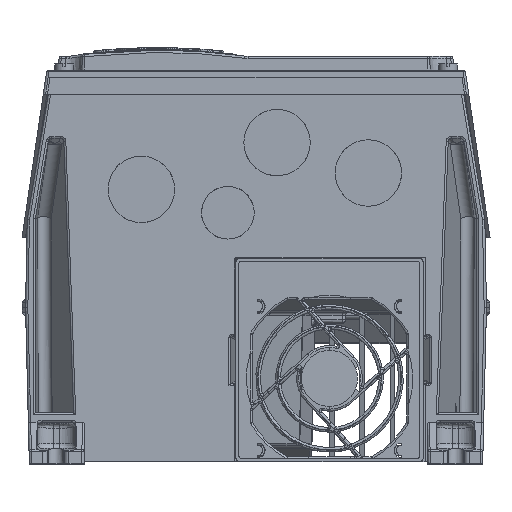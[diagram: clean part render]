
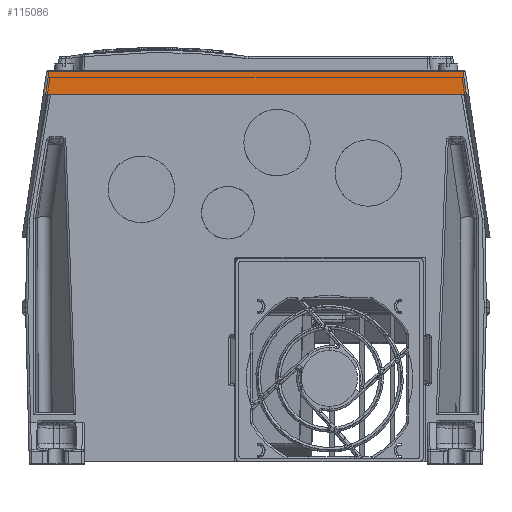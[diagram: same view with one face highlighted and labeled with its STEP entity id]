
A CAD part, front view. The second image highlights one B-rep face of the part: STEP entity #115086.
In plain terms, the highlighted planar face has unit normal (0, -1, 0.018).
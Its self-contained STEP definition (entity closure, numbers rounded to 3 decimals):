
#18774=CARTESIAN_POINT('',(88.458,-195.731,
71.605));
#18784=CARTESIAN_POINT('',(-89.895,-195.9,61.9));
#18790=DIRECTION('',(1.,0.,0.));
#18791=VECTOR('',#18790,179.791);
#18792=CARTESIAN_POINT('',(-89.895,-195.9,61.9));
#18793=LINE('',#18792,#18791);
#18798=CARTESIAN_POINT('',(89.895,-195.9,61.9));
#36164=DIRECTION('',(-1.,0.,0.));
#36165=VECTOR('',#36164,176.915);
#36166=CARTESIAN_POINT('',(88.458,-195.731,
71.605));
#36167=LINE('',#36166,#36165);
#36168=DIRECTION('',(0.147,-0.017,-0.989));
#36169=VECTOR('',#36168,9.813);
#36170=CARTESIAN_POINT('',(88.458,-195.731,
71.605));
#36171=LINE('',#36170,#36169);
#36172=DIRECTION('',(0.147,0.017,0.989));
#36173=VECTOR('',#36172,9.813);
#36174=CARTESIAN_POINT('',(-89.895,-195.9,61.9));
#36175=LINE('',#36174,#36173);
#48409=VERTEX_POINT('',#18798);
#48410=VERTEX_POINT('',#18784);
#48486=VERTEX_POINT('',#18774);
#48489=CARTESIAN_POINT('',(-88.458,-195.731,
71.605));
#48490=VERTEX_POINT('',#48489);
#115075=CARTESIAN_POINT('',(-93.442,-195.726,71.9));
#115076=DIRECTION('',(0.,-1.,0.017));
#115077=DIRECTION('',(0.,-0.017,-1.));
#115078=AXIS2_PLACEMENT_3D('',#115075,#115076,#115077);
#115079=PLANE('',#115078);
#115080=ORIENTED_EDGE('',*,*,#115067,.F.);
#115081=ORIENTED_EDGE('',*,*,#82739,.T.);
#115082=ORIENTED_EDGE('',*,*,#82758,.F.);
#115083=ORIENTED_EDGE('',*,*,#82814,.T.);
#115084=EDGE_LOOP('',(#115080,#115081,#115082,#115083));
#115085=FACE_OUTER_BOUND('',#115084,.F.);
#82739=EDGE_CURVE('',#48486,#48409,#36171,.T.);
#82758=EDGE_CURVE('',#48410,#48409,#18793,.T.);
#82814=EDGE_CURVE('',#48410,#48490,#36175,.T.);
#115067=EDGE_CURVE('',#48486,#48490,#36167,.T.);
#115086=ADVANCED_FACE('',(#115085),#115079,.T.);
